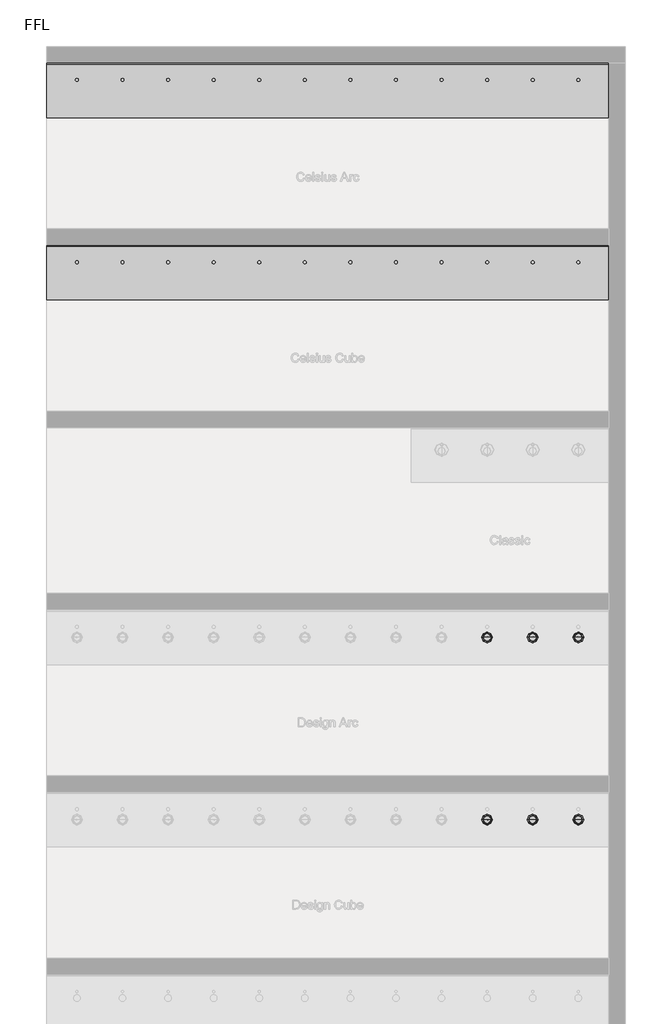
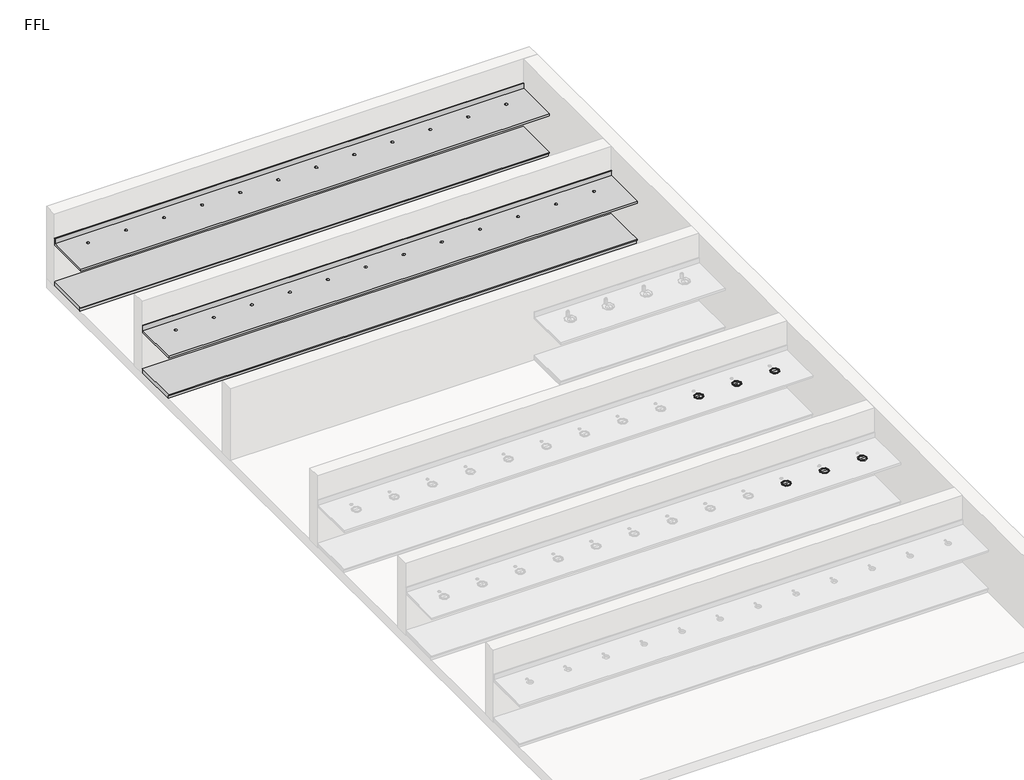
# One storey, part 4 of 6: 6 flow terminals, 4 furniture elements.
"""IFC4 building model written with IfcOpenShell, lengths in millimetres."""

from ifc_helpers import new_model, si_unit, frame, origin, place, context, project, spatial, polyline, circle_curve, transform, mapped, element, save
from ifc_brep_helpers import plane_surface, revolved_surface, advanced_brep
from components import bright_chrome_743c02cf, generic_plinth_900mm_08863006

model = new_model("IFC4")

# Units and contexts
model_context = context("Model", 3, world=origin())
ifc_project = project(units=[si_unit("LENGTHUNIT", "METRE", prefix="MILLI")], contexts=[model_context])

# Site, building, storey
site = spatial("IfcSite", under=ifc_project)
building = spatial("IfcBuilding", under=site)
storey = spatial("IfcBuildingStorey", under=building, Name="FFL", Elevation=0.0)

# Flow terminals
placement = place(None, origin())
bright_chrome_shape = bright_chrome_743c02cf(model_context)
element("IfcFlowTerminal", 1, ObjectType="z_PlumFixt_Zip Australia_Font : Nickel", at=placement, inside=storey, context=model_context, shape_type="MappedRepresentation", body=[
    mapped(bright_chrome_shape, transform((279.2647071, 1381.2393304, 900.0), x_axis=(1.0, 0.0, 0.0), y_axis=(0.0, 1.0, 0.0), z_axis=(0.0, 0.0, 1.0))),
])
element("IfcFlowTerminal", 2, ObjectType="z_PlumFixt_Zip Australia_Font : Nickel", at=placement, inside=storey, context=model_context, shape_type="MappedRepresentation", body=[
    mapped(bright_chrome_shape, transform((279.2647071, 4381.2393304, 900.0), x_axis=(1.0, 0.0, 0.0), y_axis=(0.0, 1.0, 0.0), z_axis=(0.0, 0.0, 1.0))),
])
element("IfcFlowTerminal", 3, ObjectType="z_PlumFixt_Zip Australia_Font : Platinum", at=placement, inside=storey, context=model_context, shape_type="MappedRepresentation", body=[
    mapped(bright_chrome_shape, transform((1029.2647071, 1381.2393304, 900.0), x_axis=(1.0, 0.0, 0.0), y_axis=(0.0, 1.0, 0.0), z_axis=(0.0, 0.0, 1.0))),
])
element("IfcFlowTerminal", 4, ObjectType="z_PlumFixt_Zip Australia_Font : Platinum", at=placement, inside=storey, context=model_context, shape_type="MappedRepresentation", body=[
    mapped(bright_chrome_shape, transform((1029.2647071, 4381.2393304, 900.0), x_axis=(1.0, 0.0, 0.0), y_axis=(0.0, 1.0, 0.0), z_axis=(0.0, 0.0, 1.0))),
])
element("IfcFlowTerminal", 5, ObjectType="z_PlumFixt_Zip Australia_Font : Rose Gold", at=placement, inside=storey, context=model_context, shape_type="MappedRepresentation", body=[
    mapped(bright_chrome_shape, transform((1779.2647071, 1381.2393304, 900.0), x_axis=(1.0, 0.0, 0.0), y_axis=(0.0, 1.0, 0.0), z_axis=(0.0, 0.0, 1.0))),
])
element("IfcFlowTerminal", 6, ObjectType="z_PlumFixt_Zip Australia_Font : Rose Gold", at=placement, inside=storey, context=model_context, shape_type="MappedRepresentation", body=[
    mapped(bright_chrome_shape, transform((1779.2647071, 4381.2393304, 900.0), x_axis=(1.0, 0.0, 0.0), y_axis=(0.0, 1.0, 0.0), z_axis=(0.0, 0.0, 1.0))),
])

# Furniture
element("IfcFurniture", 7, ObjectType="Counter Top : 900mm Depth", at=placement, inside=storey, context=model_context, shape_type="AdvancedBrep", body=[
    advanced_brep(
    [(-6969.7352929, 12948.2393304, 900.0), (2280.2657919, 12948.2393304, 900.0), (2280.2657919, 13829.1893304, 900.0), (-6969.7352929, 13829.1893304, 900.0), (-6469.7352929, 13543.7393304, 900.0), (-6469.7352929, 13592.7393304, 900.0), (-5719.7352929, 13543.7393304, 900.0), (-5719.7352929, 13592.7393304, 900.0), (-4969.7352929, 13543.7393304, 900.0), (-4969.7352929, 13592.7393304, 900.0), (-4219.7352929, 13543.7393304, 900.0), (-4219.7352929, 13592.7393304, 900.0), (-3469.7352929, 13543.7393304, 900.0), (-3469.7352929, 13592.7393304, 900.0), (-2719.7352929, 13543.7393304, 900.0), (-2719.7352929, 13592.7393304, 900.0), (-1969.7352929, 13543.7393304, 900.0), (-1969.7352929, 13592.7393304, 900.0), (-1219.7352929, 13543.7393304, 900.0), (-1219.7352929, 13592.7393304, 900.0), (-469.7352929, 13543.7393304, 900.0), (-469.7352929, 13592.7393304, 900.0), (280.2647071, 13543.7393304, 900.0), (280.2647071, 13592.7393304, 900.0), (1030.2647071, 13543.7393304, 900.0), (1030.2647071, 13592.7393304, 900.0), (1780.2647071, 13543.7393304, 900.0), (1780.2647071, 13592.7393304, 900.0), (2280.2657919, 13848.2393304, 860.0), (2280.2657919, 12948.2393304, 860.0), (-6969.7352929, 12948.2393304, 860.0), (-6969.7352929, 13848.2393304, 860.0), (-6469.7352929, 13592.7393304, 860.0), (-6469.7352929, 13543.7393304, 860.0), (-5719.7352929, 13592.7393304, 860.0), (-5719.7352929, 13543.7393304, 860.0), (-4969.7352929, 13592.7393304, 860.0), (-4969.7352929, 13543.7393304, 860.0), (-4219.7352929, 13592.7393304, 860.0), (-4219.7352929, 13543.7393304, 860.0), (-3469.7352929, 13592.7393304, 860.0), (-3469.7352929, 13543.7393304, 860.0), (-2719.7352929, 13592.7393304, 860.0), (-2719.7352929, 13543.7393304, 860.0), (-1969.7352929, 13592.7393304, 860.0), (-1969.7352929, 13543.7393304, 860.0), (-1219.7352929, 13592.7393304, 860.0), (-1219.7352929, 13543.7393304, 860.0), (-469.7352929, 13592.7393304, 860.0), (-469.7352929, 13543.7393304, 860.0), (280.2647071, 13592.7393304, 860.0), (280.2647071, 13543.7393304, 860.0), (1030.2647071, 13592.7393304, 860.0), (1030.2647071, 13543.7393304, 860.0), (1780.2647071, 13592.7393304, 860.0), (1780.2647071, 13543.7393304, 860.0), (-6969.7352929, 13848.2393304, 1001.6), (2280.2657919, 13848.2393304, 1001.6), (-6969.7352929, 13829.1893304, 1001.6), (2280.2657919, 13829.1893304, 1001.6)],
    [
        (0, 1),
        (1, 2),
        (2, 3),
        (3, 0),
        (4, 5, circle_curve(frame((-6469.7352929, 13568.2393304, 900.0), z_axis=(0.0, 0.0, -1.0), x_axis=(0.0, -1.0, 0.0)), 24.5)),
        (5, 4, circle_curve(frame((-6469.7352929, 13568.2393304, 900.0), z_axis=(0.0, 0.0, -1.0), x_axis=(0.0, -1.0, 0.0)), 24.5)),
        (6, 7, circle_curve(frame((-5719.7352929, 13568.2393304, 900.0), z_axis=(0.0, 0.0, -1.0), x_axis=(0.0, -1.0, 0.0)), 24.5)),
        (7, 6, circle_curve(frame((-5719.7352929, 13568.2393304, 900.0), z_axis=(0.0, 0.0, -1.0), x_axis=(0.0, -1.0, 0.0)), 24.5)),
        (8, 9, circle_curve(frame((-4969.7352929, 13568.2393304, 900.0), z_axis=(0.0, 0.0, -1.0), x_axis=(0.0, -1.0, 0.0)), 24.5)),
        (9, 8, circle_curve(frame((-4969.7352929, 13568.2393304, 900.0), z_axis=(0.0, 0.0, -1.0), x_axis=(0.0, -1.0, 0.0)), 24.5)),
        (10, 11, circle_curve(frame((-4219.7352929, 13568.2393304, 900.0), z_axis=(0.0, 0.0, -1.0), x_axis=(0.0, -1.0, 0.0)), 24.5)),
        (11, 10, circle_curve(frame((-4219.7352929, 13568.2393304, 900.0), z_axis=(0.0, 0.0, -1.0), x_axis=(0.0, -1.0, 0.0)), 24.5)),
        (12, 13, circle_curve(frame((-3469.7352929, 13568.2393304, 900.0), z_axis=(0.0, 0.0, -1.0), x_axis=(0.0, -1.0, 0.0)), 24.5)),
        (13, 12, circle_curve(frame((-3469.7352929, 13568.2393304, 900.0), z_axis=(0.0, 0.0, -1.0), x_axis=(0.0, -1.0, 0.0)), 24.5)),
        (14, 15, circle_curve(frame((-2719.7352929, 13568.2393304, 900.0), z_axis=(0.0, 0.0, -1.0), x_axis=(0.0, -1.0, 0.0)), 24.5)),
        (15, 14, circle_curve(frame((-2719.7352929, 13568.2393304, 900.0), z_axis=(0.0, 0.0, -1.0), x_axis=(0.0, -1.0, 0.0)), 24.5)),
        (16, 17, circle_curve(frame((-1969.7352929, 13568.2393304, 900.0), z_axis=(0.0, 0.0, -1.0), x_axis=(0.0, -1.0, 0.0)), 24.5)),
        (17, 16, circle_curve(frame((-1969.7352929, 13568.2393304, 900.0), z_axis=(0.0, 0.0, -1.0), x_axis=(0.0, -1.0, 0.0)), 24.5)),
        (18, 19, circle_curve(frame((-1219.7352929, 13568.2393304, 900.0), z_axis=(0.0, 0.0, -1.0), x_axis=(0.0, -1.0, 0.0)), 24.5)),
        (19, 18, circle_curve(frame((-1219.7352929, 13568.2393304, 900.0), z_axis=(0.0, 0.0, -1.0), x_axis=(0.0, -1.0, 0.0)), 24.5)),
        (20, 21, circle_curve(frame((-469.7352929, 13568.2393304, 900.0), z_axis=(0.0, 0.0, -1.0), x_axis=(0.0, -1.0, 0.0)), 24.5)),
        (21, 20, circle_curve(frame((-469.7352929, 13568.2393304, 900.0), z_axis=(0.0, 0.0, -1.0), x_axis=(0.0, -1.0, 0.0)), 24.5)),
        (22, 23, circle_curve(frame((280.2647071, 13568.2393304, 900.0), z_axis=(0.0, 0.0, -1.0), x_axis=(0.0, -1.0, 0.0)), 24.5)),
        (23, 22, circle_curve(frame((280.2647071, 13568.2393304, 900.0), z_axis=(0.0, 0.0, -1.0), x_axis=(0.0, -1.0, 0.0)), 24.5)),
        (24, 25, circle_curve(frame((1030.2647071, 13568.2393304, 900.0), z_axis=(0.0, 0.0, -1.0), x_axis=(0.0, -1.0, 0.0)), 24.5)),
        (25, 24, circle_curve(frame((1030.2647071, 13568.2393304, 900.0), z_axis=(0.0, 0.0, -1.0), x_axis=(0.0, -1.0, 0.0)), 24.5)),
        (26, 27, circle_curve(frame((1780.2647071, 13568.2393304, 900.0), z_axis=(0.0, 0.0, -1.0), x_axis=(0.0, -1.0, 0.0)), 24.5)),
        (27, 26, circle_curve(frame((1780.2647071, 13568.2393304, 900.0), z_axis=(0.0, 0.0, -1.0), x_axis=(0.0, -1.0, 0.0)), 24.5)),
        (28, 29),
        (29, 30),
        (30, 31),
        (31, 28),
        (32, 33, circle_curve(frame((-6469.7352929, 13568.2393304, 860.0), z_axis=(0.0, 0.0, 1.0), x_axis=(0.0, -1.0, 0.0)), 24.5)),
        (33, 32, circle_curve(frame((-6469.7352929, 13568.2393304, 860.0), z_axis=(0.0, 0.0, 1.0), x_axis=(0.0, -1.0, 0.0)), 24.5)),
        (34, 35, circle_curve(frame((-5719.7352929, 13568.2393304, 860.0), z_axis=(0.0, 0.0, 1.0), x_axis=(0.0, -1.0, 0.0)), 24.5)),
        (35, 34, circle_curve(frame((-5719.7352929, 13568.2393304, 860.0), z_axis=(0.0, 0.0, 1.0), x_axis=(0.0, -1.0, 0.0)), 24.5)),
        (36, 37, circle_curve(frame((-4969.7352929, 13568.2393304, 860.0), z_axis=(0.0, 0.0, 1.0), x_axis=(0.0, -1.0, 0.0)), 24.5)),
        (37, 36, circle_curve(frame((-4969.7352929, 13568.2393304, 860.0), z_axis=(0.0, 0.0, 1.0), x_axis=(0.0, -1.0, 0.0)), 24.5)),
        (38, 39, circle_curve(frame((-4219.7352929, 13568.2393304, 860.0), z_axis=(0.0, 0.0, 1.0), x_axis=(0.0, -1.0, 0.0)), 24.5)),
        (39, 38, circle_curve(frame((-4219.7352929, 13568.2393304, 860.0), z_axis=(0.0, 0.0, 1.0), x_axis=(0.0, -1.0, 0.0)), 24.5)),
        (40, 41, circle_curve(frame((-3469.7352929, 13568.2393304, 860.0), z_axis=(0.0, 0.0, 1.0), x_axis=(0.0, -1.0, 0.0)), 24.5)),
        (41, 40, circle_curve(frame((-3469.7352929, 13568.2393304, 860.0), z_axis=(0.0, 0.0, 1.0), x_axis=(0.0, -1.0, 0.0)), 24.5)),
        (42, 43, circle_curve(frame((-2719.7352929, 13568.2393304, 860.0), z_axis=(0.0, 0.0, 1.0), x_axis=(0.0, -1.0, 0.0)), 24.5)),
        (43, 42, circle_curve(frame((-2719.7352929, 13568.2393304, 860.0), z_axis=(0.0, 0.0, 1.0), x_axis=(0.0, -1.0, 0.0)), 24.5)),
        (44, 45, circle_curve(frame((-1969.7352929, 13568.2393304, 860.0), z_axis=(0.0, 0.0, 1.0), x_axis=(0.0, -1.0, 0.0)), 24.5)),
        (45, 44, circle_curve(frame((-1969.7352929, 13568.2393304, 860.0), z_axis=(0.0, 0.0, 1.0), x_axis=(0.0, -1.0, 0.0)), 24.5)),
        (46, 47, circle_curve(frame((-1219.7352929, 13568.2393304, 860.0), z_axis=(0.0, 0.0, 1.0), x_axis=(0.0, -1.0, 0.0)), 24.5)),
        (47, 46, circle_curve(frame((-1219.7352929, 13568.2393304, 860.0), z_axis=(0.0, 0.0, 1.0), x_axis=(0.0, -1.0, 0.0)), 24.5)),
        (48, 49, circle_curve(frame((-469.7352929, 13568.2393304, 860.0), z_axis=(0.0, 0.0, 1.0), x_axis=(0.0, -1.0, 0.0)), 24.5)),
        (49, 48, circle_curve(frame((-469.7352929, 13568.2393304, 860.0), z_axis=(0.0, 0.0, 1.0), x_axis=(0.0, -1.0, 0.0)), 24.5)),
        (50, 51, circle_curve(frame((280.2647071, 13568.2393304, 860.0), z_axis=(0.0, 0.0, 1.0), x_axis=(0.0, -1.0, 0.0)), 24.5)),
        (51, 50, circle_curve(frame((280.2647071, 13568.2393304, 860.0), z_axis=(0.0, 0.0, 1.0), x_axis=(0.0, -1.0, 0.0)), 24.5)),
        (52, 53, circle_curve(frame((1030.2647071, 13568.2393304, 860.0), z_axis=(0.0, 0.0, 1.0), x_axis=(0.0, -1.0, 0.0)), 24.5)),
        (53, 52, circle_curve(frame((1030.2647071, 13568.2393304, 860.0), z_axis=(0.0, 0.0, 1.0), x_axis=(0.0, -1.0, 0.0)), 24.5)),
        (54, 55, circle_curve(frame((1780.2647071, 13568.2393304, 860.0), z_axis=(0.0, 0.0, 1.0), x_axis=(0.0, -1.0, 0.0)), 24.5)),
        (55, 54, circle_curve(frame((1780.2647071, 13568.2393304, 860.0), z_axis=(0.0, 0.0, 1.0), x_axis=(0.0, -1.0, 0.0)), 24.5)),
        (31, 56),
        (56, 57),
        (57, 28),
        (3, 58),
        (58, 56),
        (30, 0),
        (29, 1),
        (57, 59),
        (59, 2),
        (58, 59),
        (32, 5),
        (4, 33),
        (34, 7),
        (6, 35),
        (36, 9),
        (8, 37),
        (38, 11),
        (10, 39),
        (40, 13),
        (12, 41),
        (42, 15),
        (14, 43),
        (44, 17),
        (16, 45),
        (46, 19),
        (18, 47),
        (48, 21),
        (20, 49),
        (50, 23),
        (22, 51),
        (52, 25),
        (24, 53),
        (54, 27),
        (26, 55),
    ],
    [
        plane_surface(frame((-6969.7352929, 13848.2393304, 900.0), z_axis=(0.0, 0.0, 1.0), x_axis=(-1.0, 0.0, 0.0))),
        plane_surface(frame((-6969.7352929, 13848.2393304, 860.0), z_axis=(0.0, 0.0, -1.0), x_axis=(1.0, 0.0, 0.0))),
        plane_surface(frame((2280.2657919, 13848.2393304, 900.0), z_axis=(0.0, 1.0, 0.0), x_axis=(0.0, 0.0, -1.0))),
        plane_surface(frame((-6969.7352929, 13848.2393304, 900.0), z_axis=(-1.0, 0.0, 0.0), x_axis=(0.0, 0.0, -1.0))),
        plane_surface(frame((-6969.7352929, 12948.2393304, 900.0), z_axis=(0.0, -1.0, 0.0), x_axis=(0.0, 0.0, -1.0))),
        plane_surface(frame((2280.2657919, 12948.2393304, 900.0), z_axis=(1.0, 0.0, 0.0), x_axis=(0.0, 0.0, -1.0))),
        plane_surface(frame((-6969.7352929, 13848.2393304, 1001.6), z_axis=(0.0, 0.0, 1.0), x_axis=(0.0, -1.0, 0.0))),
        plane_surface(frame((-6969.7352929, 13829.1893304, 1001.6), z_axis=(0.0, -1.0, 0.0), x_axis=(0.0, 0.0, -1.0))),
        revolved_surface(polyline([(-6469.7352929, 13543.7393304, 900.0), (-6469.7352929, 13543.7393304, 860.0)]), (-6469.7352929, 13568.2393304, 700.0), (0.0, 0.0, 1.0)),
        revolved_surface(polyline([(-5719.7352929, 13543.7393304, 900.0), (-5719.7352929, 13543.7393304, 860.0)]), (-5719.7352929, 13568.2393304, 700.0), (0.0, 0.0, 1.0)),
        revolved_surface(polyline([(-4969.7352929, 13543.7393304, 900.0), (-4969.7352929, 13543.7393304, 860.0)]), (-4969.7352929, 13568.2393304, 700.0), (0.0, 0.0, 1.0)),
        revolved_surface(polyline([(-4219.7352929, 13543.7393304, 900.0), (-4219.7352929, 13543.7393304, 860.0)]), (-4219.7352929, 13568.2393304, 700.0), (0.0, 0.0, 1.0)),
        revolved_surface(polyline([(-3469.7352929, 13543.7393304, 900.0), (-3469.7352929, 13543.7393304, 860.0)]), (-3469.7352929, 13568.2393304, 700.0), (0.0, 0.0, 1.0)),
        revolved_surface(polyline([(-2719.7352929, 13543.7393304, 900.0), (-2719.7352929, 13543.7393304, 860.0)]), (-2719.7352929, 13568.2393304, 700.0), (0.0, 0.0, 1.0)),
        revolved_surface(polyline([(-1969.7352929, 13543.7393304, 900.0), (-1969.7352929, 13543.7393304, 860.0)]), (-1969.7352929, 13568.2393304, 700.0), (0.0, 0.0, 1.0)),
        revolved_surface(polyline([(-1219.7352929, 13543.7393304, 900.0), (-1219.7352929, 13543.7393304, 860.0)]), (-1219.7352929, 13568.2393304, 700.0), (0.0, 0.0, 1.0)),
        revolved_surface(polyline([(-469.7352929, 13543.7393304, 900.0), (-469.7352929, 13543.7393304, 860.0)]), (-469.7352929, 13568.2393304, 700.0), (0.0, 0.0, 1.0)),
        revolved_surface(polyline([(280.2647071, 13543.7393304, 900.0), (280.2647071, 13543.7393304, 860.0)]), (280.2647071, 13568.2393304, 700.0), (0.0, 0.0, 1.0)),
        revolved_surface(polyline([(1030.2647071, 13543.7393304, 900.0), (1030.2647071, 13543.7393304, 860.0)]), (1030.2647071, 13568.2393304, 700.0), (0.0, 0.0, 1.0)),
        revolved_surface(polyline([(1780.2647071, 13543.7393304, 900.0), (1780.2647071, 13543.7393304, 860.0)]), (1780.2647071, 13568.2393304, 700.0), (0.0, 0.0, 1.0)),
    ],
    [
        (0, [[1, 2, 3, 4], [5, 6], [7, 8], [9, 10], [11, 12], [13, 14], [15, 16], [17, 18], [19, 20], [21, 22], [23, 24], [25, 26], [27, 28]]),
        (1, [[29, 30, 31, 32], [33, 34], [35, 36], [37, 38], [39, 40], [41, 42], [43, 44], [45, 46], [47, 48], [49, 50], [51, 52], [53, 54], [55, 56]]),
        (2, [[-32, 57, 58, 59]]),
        (3, [[-4, 60, 61, -57, -31, 62]]),
        (4, [[-1, -62, -30, 63]]),
        (5, [[-2, -63, -29, -59, 64, 65]]),
        (6, [[-58, -61, 66, -64]]),
        (7, [[-3, -65, -66, -60]]),
        (8, [[67, -5, 68, -33]]),
        (8, [[-67, -34, -68, -6]]),
        (9, [[69, -7, 70, -35]]),
        (9, [[-69, -36, -70, -8]]),
        (10, [[71, -9, 72, -37]]),
        (10, [[-71, -38, -72, -10]]),
        (11, [[73, -11, 74, -39]]),
        (11, [[-73, -40, -74, -12]]),
        (12, [[75, -13, 76, -41]]),
        (12, [[-75, -42, -76, -14]]),
        (13, [[77, -15, 78, -43]]),
        (13, [[-77, -44, -78, -16]]),
        (14, [[79, -17, 80, -45]]),
        (14, [[-79, -46, -80, -18]]),
        (15, [[81, -19, 82, -47]]),
        (15, [[-81, -48, -82, -20]]),
        (16, [[83, -21, 84, -49]]),
        (16, [[-83, -50, -84, -22]]),
        (17, [[85, -23, 86, -51]]),
        (17, [[-85, -52, -86, -24]]),
        (18, [[87, -25, 88, -53]]),
        (18, [[-87, -54, -88, -26]]),
        (19, [[89, -27, 90, -55]]),
        (19, [[-89, -56, -90, -28]]),
    ],
),
])
element("IfcFurniture", 8, ObjectType="Counter Top : 900mm Depth", at=placement, inside=storey, context=model_context, shape_type="AdvancedBrep", body=[
    advanced_brep(
    [(-6969.7352929, 9948.2393304, 900.0), (2280.2657919, 9948.2393304, 900.0), (2280.2657919, 10829.1893304, 900.0), (-6969.7352929, 10829.1893304, 900.0), (-6469.7352929, 10543.7393304, 900.0), (-6469.7352929, 10592.7393304, 900.0), (-5719.7352929, 10543.7393304, 900.0), (-5719.7352929, 10592.7393304, 900.0), (-4969.7352929, 10543.7393304, 900.0), (-4969.7352929, 10592.7393304, 900.0), (-4219.7352929, 10543.7393304, 900.0), (-4219.7352929, 10592.7393304, 900.0), (-3469.7352929, 10543.7393304, 900.0), (-3469.7352929, 10592.7393304, 900.0), (-2719.7352929, 10543.7393304, 900.0), (-2719.7352929, 10592.7393304, 900.0), (-1969.7352929, 10543.7393304, 900.0), (-1969.7352929, 10592.7393304, 900.0), (-1219.7352929, 10543.7393304, 900.0), (-1219.7352929, 10592.7393304, 900.0), (-469.7352929, 10543.7393304, 900.0), (-469.7352929, 10592.7393304, 900.0), (280.2647071, 10543.7393304, 900.0), (280.2647071, 10592.7393304, 900.0), (1030.2647071, 10543.7393304, 900.0), (1030.2647071, 10592.7393304, 900.0), (1780.2647071, 10543.7393304, 900.0), (1780.2647071, 10592.7393304, 900.0), (2280.2657919, 10848.2393304, 860.0), (2280.2657919, 9948.2393304, 860.0), (-6969.7352929, 9948.2393304, 860.0), (-6969.7352929, 10848.2393304, 860.0), (-6469.7352929, 10592.7393304, 860.0), (-6469.7352929, 10543.7393304, 860.0), (-5719.7352929, 10592.7393304, 860.0), (-5719.7352929, 10543.7393304, 860.0), (-4969.7352929, 10592.7393304, 860.0), (-4969.7352929, 10543.7393304, 860.0), (-4219.7352929, 10592.7393304, 860.0), (-4219.7352929, 10543.7393304, 860.0), (-3469.7352929, 10592.7393304, 860.0), (-3469.7352929, 10543.7393304, 860.0), (-2719.7352929, 10592.7393304, 860.0), (-2719.7352929, 10543.7393304, 860.0), (-1969.7352929, 10592.7393304, 860.0), (-1969.7352929, 10543.7393304, 860.0), (-1219.7352929, 10592.7393304, 860.0), (-1219.7352929, 10543.7393304, 860.0), (-469.7352929, 10592.7393304, 860.0), (-469.7352929, 10543.7393304, 860.0), (280.2647071, 10592.7393304, 860.0), (280.2647071, 10543.7393304, 860.0), (1030.2647071, 10592.7393304, 860.0), (1030.2647071, 10543.7393304, 860.0), (1780.2647071, 10592.7393304, 860.0), (1780.2647071, 10543.7393304, 860.0), (-6969.7352929, 10848.2393304, 1001.6), (2280.2657919, 10848.2393304, 1001.6), (-6969.7352929, 10829.1893304, 1001.6), (2280.2657919, 10829.1893304, 1001.6)],
    [
        (0, 1),
        (1, 2),
        (2, 3),
        (3, 0),
        (4, 5, circle_curve(frame((-6469.7352929, 10568.2393304, 900.0), z_axis=(0.0, 0.0, -1.0), x_axis=(0.0, -1.0, 0.0)), 24.5)),
        (5, 4, circle_curve(frame((-6469.7352929, 10568.2393304, 900.0), z_axis=(0.0, 0.0, -1.0), x_axis=(0.0, -1.0, 0.0)), 24.5)),
        (6, 7, circle_curve(frame((-5719.7352929, 10568.2393304, 900.0), z_axis=(0.0, 0.0, -1.0), x_axis=(0.0, -1.0, 0.0)), 24.5)),
        (7, 6, circle_curve(frame((-5719.7352929, 10568.2393304, 900.0), z_axis=(0.0, 0.0, -1.0), x_axis=(0.0, -1.0, 0.0)), 24.5)),
        (8, 9, circle_curve(frame((-4969.7352929, 10568.2393304, 900.0), z_axis=(0.0, 0.0, -1.0), x_axis=(0.0, -1.0, 0.0)), 24.5)),
        (9, 8, circle_curve(frame((-4969.7352929, 10568.2393304, 900.0), z_axis=(0.0, 0.0, -1.0), x_axis=(0.0, -1.0, 0.0)), 24.5)),
        (10, 11, circle_curve(frame((-4219.7352929, 10568.2393304, 900.0), z_axis=(0.0, 0.0, -1.0), x_axis=(0.0, -1.0, 0.0)), 24.5)),
        (11, 10, circle_curve(frame((-4219.7352929, 10568.2393304, 900.0), z_axis=(0.0, 0.0, -1.0), x_axis=(0.0, -1.0, 0.0)), 24.5)),
        (12, 13, circle_curve(frame((-3469.7352929, 10568.2393304, 900.0), z_axis=(0.0, 0.0, -1.0), x_axis=(0.0, -1.0, 0.0)), 24.5)),
        (13, 12, circle_curve(frame((-3469.7352929, 10568.2393304, 900.0), z_axis=(0.0, 0.0, -1.0), x_axis=(0.0, -1.0, 0.0)), 24.5)),
        (14, 15, circle_curve(frame((-2719.7352929, 10568.2393304, 900.0), z_axis=(0.0, 0.0, -1.0), x_axis=(0.0, -1.0, 0.0)), 24.5)),
        (15, 14, circle_curve(frame((-2719.7352929, 10568.2393304, 900.0), z_axis=(0.0, 0.0, -1.0), x_axis=(0.0, -1.0, 0.0)), 24.5)),
        (16, 17, circle_curve(frame((-1969.7352929, 10568.2393304, 900.0), z_axis=(0.0, 0.0, -1.0), x_axis=(0.0, -1.0, 0.0)), 24.5)),
        (17, 16, circle_curve(frame((-1969.7352929, 10568.2393304, 900.0), z_axis=(0.0, 0.0, -1.0), x_axis=(0.0, -1.0, 0.0)), 24.5)),
        (18, 19, circle_curve(frame((-1219.7352929, 10568.2393304, 900.0), z_axis=(0.0, 0.0, -1.0), x_axis=(0.0, -1.0, 0.0)), 24.5)),
        (19, 18, circle_curve(frame((-1219.7352929, 10568.2393304, 900.0), z_axis=(0.0, 0.0, -1.0), x_axis=(0.0, -1.0, 0.0)), 24.5)),
        (20, 21, circle_curve(frame((-469.7352929, 10568.2393304, 900.0), z_axis=(0.0, 0.0, -1.0), x_axis=(0.0, -1.0, 0.0)), 24.5)),
        (21, 20, circle_curve(frame((-469.7352929, 10568.2393304, 900.0), z_axis=(0.0, 0.0, -1.0), x_axis=(0.0, -1.0, 0.0)), 24.5)),
        (22, 23, circle_curve(frame((280.2647071, 10568.2393304, 900.0), z_axis=(0.0, 0.0, -1.0), x_axis=(0.0, -1.0, 0.0)), 24.5)),
        (23, 22, circle_curve(frame((280.2647071, 10568.2393304, 900.0), z_axis=(0.0, 0.0, -1.0), x_axis=(0.0, -1.0, 0.0)), 24.5)),
        (24, 25, circle_curve(frame((1030.2647071, 10568.2393304, 900.0), z_axis=(0.0, 0.0, -1.0), x_axis=(0.0, -1.0, 0.0)), 24.5)),
        (25, 24, circle_curve(frame((1030.2647071, 10568.2393304, 900.0), z_axis=(0.0, 0.0, -1.0), x_axis=(0.0, -1.0, 0.0)), 24.5)),
        (26, 27, circle_curve(frame((1780.2647071, 10568.2393304, 900.0), z_axis=(0.0, 0.0, -1.0), x_axis=(0.0, -1.0, 0.0)), 24.5)),
        (27, 26, circle_curve(frame((1780.2647071, 10568.2393304, 900.0), z_axis=(0.0, 0.0, -1.0), x_axis=(0.0, -1.0, 0.0)), 24.5)),
        (28, 29),
        (29, 30),
        (30, 31),
        (31, 28),
        (32, 33, circle_curve(frame((-6469.7352929, 10568.2393304, 860.0), z_axis=(0.0, 0.0, 1.0), x_axis=(0.0, -1.0, 0.0)), 24.5)),
        (33, 32, circle_curve(frame((-6469.7352929, 10568.2393304, 860.0), z_axis=(0.0, 0.0, 1.0), x_axis=(0.0, -1.0, 0.0)), 24.5)),
        (34, 35, circle_curve(frame((-5719.7352929, 10568.2393304, 860.0), z_axis=(0.0, 0.0, 1.0), x_axis=(0.0, -1.0, 0.0)), 24.5)),
        (35, 34, circle_curve(frame((-5719.7352929, 10568.2393304, 860.0), z_axis=(0.0, 0.0, 1.0), x_axis=(0.0, -1.0, 0.0)), 24.5)),
        (36, 37, circle_curve(frame((-4969.7352929, 10568.2393304, 860.0), z_axis=(0.0, 0.0, 1.0), x_axis=(0.0, -1.0, 0.0)), 24.5)),
        (37, 36, circle_curve(frame((-4969.7352929, 10568.2393304, 860.0), z_axis=(0.0, 0.0, 1.0), x_axis=(0.0, -1.0, 0.0)), 24.5)),
        (38, 39, circle_curve(frame((-4219.7352929, 10568.2393304, 860.0), z_axis=(0.0, 0.0, 1.0), x_axis=(0.0, -1.0, 0.0)), 24.5)),
        (39, 38, circle_curve(frame((-4219.7352929, 10568.2393304, 860.0), z_axis=(0.0, 0.0, 1.0), x_axis=(0.0, -1.0, 0.0)), 24.5)),
        (40, 41, circle_curve(frame((-3469.7352929, 10568.2393304, 860.0), z_axis=(0.0, 0.0, 1.0), x_axis=(0.0, -1.0, 0.0)), 24.5)),
        (41, 40, circle_curve(frame((-3469.7352929, 10568.2393304, 860.0), z_axis=(0.0, 0.0, 1.0), x_axis=(0.0, -1.0, 0.0)), 24.5)),
        (42, 43, circle_curve(frame((-2719.7352929, 10568.2393304, 860.0), z_axis=(0.0, 0.0, 1.0), x_axis=(0.0, -1.0, 0.0)), 24.5)),
        (43, 42, circle_curve(frame((-2719.7352929, 10568.2393304, 860.0), z_axis=(0.0, 0.0, 1.0), x_axis=(0.0, -1.0, 0.0)), 24.5)),
        (44, 45, circle_curve(frame((-1969.7352929, 10568.2393304, 860.0), z_axis=(0.0, 0.0, 1.0), x_axis=(0.0, -1.0, 0.0)), 24.5)),
        (45, 44, circle_curve(frame((-1969.7352929, 10568.2393304, 860.0), z_axis=(0.0, 0.0, 1.0), x_axis=(0.0, -1.0, 0.0)), 24.5)),
        (46, 47, circle_curve(frame((-1219.7352929, 10568.2393304, 860.0), z_axis=(0.0, 0.0, 1.0), x_axis=(0.0, -1.0, 0.0)), 24.5)),
        (47, 46, circle_curve(frame((-1219.7352929, 10568.2393304, 860.0), z_axis=(0.0, 0.0, 1.0), x_axis=(0.0, -1.0, 0.0)), 24.5)),
        (48, 49, circle_curve(frame((-469.7352929, 10568.2393304, 860.0), z_axis=(0.0, 0.0, 1.0), x_axis=(0.0, -1.0, 0.0)), 24.5)),
        (49, 48, circle_curve(frame((-469.7352929, 10568.2393304, 860.0), z_axis=(0.0, 0.0, 1.0), x_axis=(0.0, -1.0, 0.0)), 24.5)),
        (50, 51, circle_curve(frame((280.2647071, 10568.2393304, 860.0), z_axis=(0.0, 0.0, 1.0), x_axis=(0.0, -1.0, 0.0)), 24.5)),
        (51, 50, circle_curve(frame((280.2647071, 10568.2393304, 860.0), z_axis=(0.0, 0.0, 1.0), x_axis=(0.0, -1.0, 0.0)), 24.5)),
        (52, 53, circle_curve(frame((1030.2647071, 10568.2393304, 860.0), z_axis=(0.0, 0.0, 1.0), x_axis=(0.0, -1.0, 0.0)), 24.5)),
        (53, 52, circle_curve(frame((1030.2647071, 10568.2393304, 860.0), z_axis=(0.0, 0.0, 1.0), x_axis=(0.0, -1.0, 0.0)), 24.5)),
        (54, 55, circle_curve(frame((1780.2647071, 10568.2393304, 860.0), z_axis=(0.0, 0.0, 1.0), x_axis=(0.0, -1.0, 0.0)), 24.5)),
        (55, 54, circle_curve(frame((1780.2647071, 10568.2393304, 860.0), z_axis=(0.0, 0.0, 1.0), x_axis=(0.0, -1.0, 0.0)), 24.5)),
        (31, 56),
        (56, 57),
        (57, 28),
        (3, 58),
        (58, 56),
        (30, 0),
        (29, 1),
        (57, 59),
        (59, 2),
        (58, 59),
        (32, 5),
        (4, 33),
        (34, 7),
        (6, 35),
        (36, 9),
        (8, 37),
        (38, 11),
        (10, 39),
        (40, 13),
        (12, 41),
        (42, 15),
        (14, 43),
        (44, 17),
        (16, 45),
        (46, 19),
        (18, 47),
        (48, 21),
        (20, 49),
        (50, 23),
        (22, 51),
        (52, 25),
        (24, 53),
        (54, 27),
        (26, 55),
    ],
    [
        plane_surface(frame((-6969.7352929, 10848.2393304, 900.0), z_axis=(0.0, 0.0, 1.0), x_axis=(-1.0, 0.0, 0.0))),
        plane_surface(frame((-6969.7352929, 10848.2393304, 860.0), z_axis=(0.0, 0.0, -1.0), x_axis=(1.0, 0.0, 0.0))),
        plane_surface(frame((2280.2657919, 10848.2393304, 900.0), z_axis=(0.0, 1.0, 0.0), x_axis=(0.0, 0.0, -1.0))),
        plane_surface(frame((-6969.7352929, 10848.2393304, 900.0), z_axis=(-1.0, 0.0, 0.0), x_axis=(0.0, 0.0, -1.0))),
        plane_surface(frame((-6969.7352929, 9948.2393304, 900.0), z_axis=(0.0, -1.0, 0.0), x_axis=(0.0, 0.0, -1.0))),
        plane_surface(frame((2280.2657919, 9948.2393304, 900.0), z_axis=(1.0, 0.0, 0.0), x_axis=(0.0, 0.0, -1.0))),
        plane_surface(frame((-6969.7352929, 10848.2393304, 1001.6), z_axis=(0.0, 0.0, 1.0), x_axis=(0.0, -1.0, 0.0))),
        plane_surface(frame((-6969.7352929, 10829.1893304, 1001.6), z_axis=(0.0, -1.0, 0.0), x_axis=(0.0, 0.0, -1.0))),
        revolved_surface(polyline([(-6469.7352929, 10543.7393304, 900.0), (-6469.7352929, 10543.7393304, 860.0)]), (-6469.7352929, 10568.2393304, 700.0), (0.0, 0.0, 1.0)),
        revolved_surface(polyline([(-5719.7352929, 10543.7393304, 900.0), (-5719.7352929, 10543.7393304, 860.0)]), (-5719.7352929, 10568.2393304, 700.0), (0.0, 0.0, 1.0)),
        revolved_surface(polyline([(-4969.7352929, 10543.7393304, 900.0), (-4969.7352929, 10543.7393304, 860.0)]), (-4969.7352929, 10568.2393304, 700.0), (0.0, 0.0, 1.0)),
        revolved_surface(polyline([(-4219.7352929, 10543.7393304, 900.0), (-4219.7352929, 10543.7393304, 860.0)]), (-4219.7352929, 10568.2393304, 700.0), (0.0, 0.0, 1.0)),
        revolved_surface(polyline([(-3469.7352929, 10543.7393304, 900.0), (-3469.7352929, 10543.7393304, 860.0)]), (-3469.7352929, 10568.2393304, 700.0), (0.0, 0.0, 1.0)),
        revolved_surface(polyline([(-2719.7352929, 10543.7393304, 900.0), (-2719.7352929, 10543.7393304, 860.0)]), (-2719.7352929, 10568.2393304, 700.0), (0.0, 0.0, 1.0)),
        revolved_surface(polyline([(-1969.7352929, 10543.7393304, 900.0), (-1969.7352929, 10543.7393304, 860.0)]), (-1969.7352929, 10568.2393304, 700.0), (0.0, 0.0, 1.0)),
        revolved_surface(polyline([(-1219.7352929, 10543.7393304, 900.0), (-1219.7352929, 10543.7393304, 860.0)]), (-1219.7352929, 10568.2393304, 700.0), (0.0, 0.0, 1.0)),
        revolved_surface(polyline([(-469.7352929, 10543.7393304, 900.0), (-469.7352929, 10543.7393304, 860.0)]), (-469.7352929, 10568.2393304, 700.0), (0.0, 0.0, 1.0)),
        revolved_surface(polyline([(280.2647071, 10543.7393304, 900.0), (280.2647071, 10543.7393304, 860.0)]), (280.2647071, 10568.2393304, 700.0), (0.0, 0.0, 1.0)),
        revolved_surface(polyline([(1030.2647071, 10543.7393304, 900.0), (1030.2647071, 10543.7393304, 860.0)]), (1030.2647071, 10568.2393304, 700.0), (0.0, 0.0, 1.0)),
        revolved_surface(polyline([(1780.2647071, 10543.7393304, 900.0), (1780.2647071, 10543.7393304, 860.0)]), (1780.2647071, 10568.2393304, 700.0), (0.0, 0.0, 1.0)),
    ],
    [
        (0, [[1, 2, 3, 4], [5, 6], [7, 8], [9, 10], [11, 12], [13, 14], [15, 16], [17, 18], [19, 20], [21, 22], [23, 24], [25, 26], [27, 28]]),
        (1, [[29, 30, 31, 32], [33, 34], [35, 36], [37, 38], [39, 40], [41, 42], [43, 44], [45, 46], [47, 48], [49, 50], [51, 52], [53, 54], [55, 56]]),
        (2, [[-32, 57, 58, 59]]),
        (3, [[-4, 60, 61, -57, -31, 62]]),
        (4, [[-1, -62, -30, 63]]),
        (5, [[-2, -63, -29, -59, 64, 65]]),
        (6, [[-58, -61, 66, -64]]),
        (7, [[-3, -65, -66, -60]]),
        (8, [[67, -5, 68, -33]]),
        (8, [[-67, -34, -68, -6]]),
        (9, [[69, -7, 70, -35]]),
        (9, [[-69, -36, -70, -8]]),
        (10, [[71, -9, 72, -37]]),
        (10, [[-71, -38, -72, -10]]),
        (11, [[73, -11, 74, -39]]),
        (11, [[-73, -40, -74, -12]]),
        (12, [[75, -13, 76, -41]]),
        (12, [[-75, -42, -76, -14]]),
        (13, [[77, -15, 78, -43]]),
        (13, [[-77, -44, -78, -16]]),
        (14, [[79, -17, 80, -45]]),
        (14, [[-79, -46, -80, -18]]),
        (15, [[81, -19, 82, -47]]),
        (15, [[-81, -48, -82, -20]]),
        (16, [[83, -21, 84, -49]]),
        (16, [[-83, -50, -84, -22]]),
        (17, [[85, -23, 86, -51]]),
        (17, [[-85, -52, -86, -24]]),
        (18, [[87, -25, 88, -53]]),
        (18, [[-87, -54, -88, -26]]),
        (19, [[89, -27, 90, -55]]),
        (19, [[-89, -56, -90, -28]]),
    ],
),
])
generic_plinth_900mm_shape = generic_plinth_900mm_08863006(model_context)
element("IfcFurniture", 9, ObjectType="Generic Plinth : 900mm", at=placement, inside=storey, context=model_context, shape_type="MappedRepresentation", body=[
    mapped(generic_plinth_900mm_shape, transform((-2363.4724554, 13848.2393304, 0.0), x_axis=(1.0, 0.0, 0.0), y_axis=(0.0, 1.0, 0.0), z_axis=(0.0, 0.0, 1.0))),
])
element("IfcFurniture", 10, ObjectType="Generic Plinth : 900mm", at=placement, inside=storey, context=model_context, shape_type="MappedRepresentation", body=[
    mapped(generic_plinth_900mm_shape, transform((-2363.4724554, 10848.2393304, 0.0), x_axis=(1.0, 0.0, 0.0), y_axis=(0.0, 1.0, 0.0), z_axis=(0.0, 0.0, 1.0))),
])

save(model, "model.ifc")
